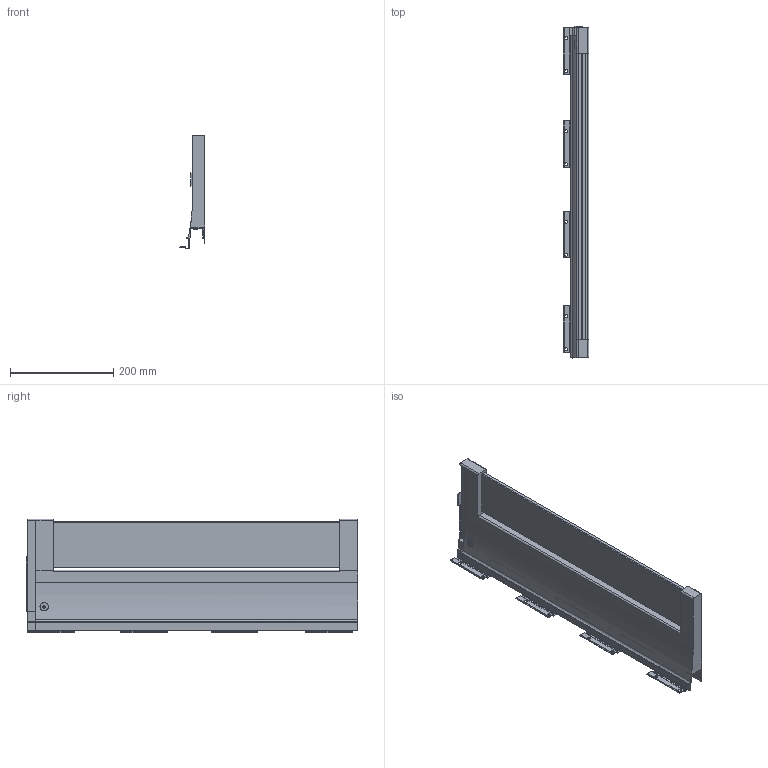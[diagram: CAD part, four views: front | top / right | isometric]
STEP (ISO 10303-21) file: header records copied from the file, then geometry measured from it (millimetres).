
FILE_DESCRIPTION (( 'STEP AP214' ), '1' );
FILE_NAME ('_XP Agantis Dekorseite H127 NL650 RE Top Glashalter.step', '2010-07-08T06:29:26', ( 'grass' ), ( '' ), 'SwSTEP 2.0', 'SolidWorks 2010', '' );
FILE_SCHEMA (( 'AUTOMOTIVE_DESIGN' ));
Length unit declared in the file: millimetre
Products named in the file (1): _XP Agantis Dekorseite H127 NL650 RE Top Glashalter
Bounding box: 50.11 x 642.6 x 220.7 mm (x, y, z)
Volume: 1997639.9 mm3; surface area: 389913.9 mm2
Topology: 1 solids, 1 shells, 206 faces, 602 edges, 393 vertices
Faces by surface type: plane 169, cylinder 37
Entity records: 6889 total; most frequent: CARTESIAN_POINT 1289, ORIENTED_EDGE 1204, DIRECTION 1088, EDGE_CURVE 602, LINE 526, VECTOR 526, VERTEX_POINT 393, AXIS2_PLACEMENT_3D 281
